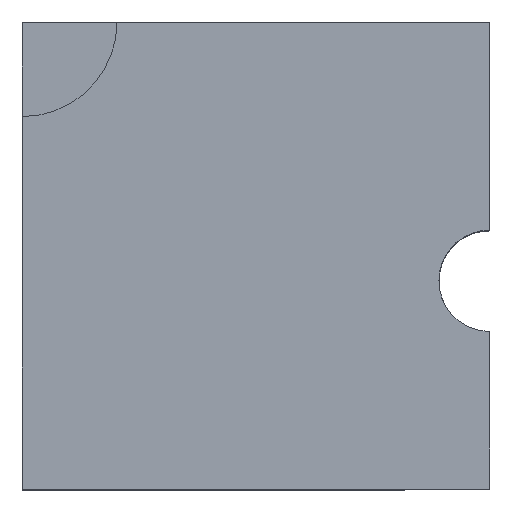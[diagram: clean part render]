
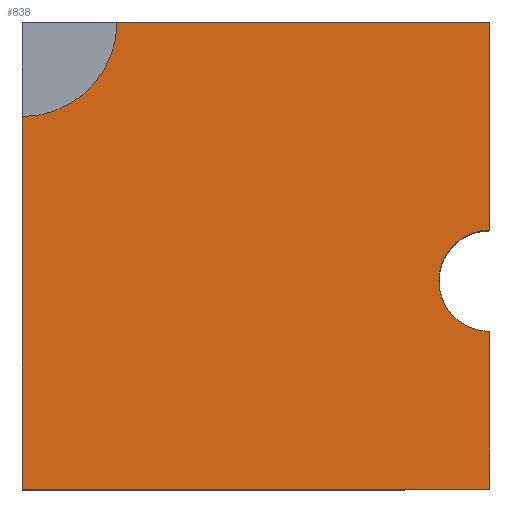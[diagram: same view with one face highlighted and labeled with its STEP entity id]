
A CAD part, top view. The second image highlights one B-rep face of the part: STEP entity #838.
In plain terms, the highlighted planar face has unit normal (0, 0, 1).
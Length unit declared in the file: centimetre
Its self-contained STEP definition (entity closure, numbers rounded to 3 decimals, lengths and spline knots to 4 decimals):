
#25 = CARTESIAN_POINT ( 'NONE',  ( 1000., 1000., 1000. ) ) ;
#80 = DIRECTION ( 'NONE',  ( 0., 0., 1. ) ) ;
#117 = CARTESIAN_POINT ( 'NONE',  ( 1000., 1000., 1000. ) ) ;
#139 = CARTESIAN_POINT ( 'NONE',  ( 0., 0., 1000. ) ) ;
#150 = CIRCLE ( 'NONE', #347, 108.4925 ) ;
#199 = LINE ( 'NONE', #312, #1360 ) ;
#202 = ORIENTED_EDGE ( 'NONE', *, *, #1067, .F. ) ;
#204 = DIRECTION ( 'NONE',  ( 0., 1., 0. ) ) ;
#229 = DIRECTION ( 'NONE',  ( 1., 0., 0. ) ) ;
#239 = EDGE_CURVE ( 'NONE', #1300, #1309, #713, .T. ) ;
#304 = CIRCLE ( 'NONE', #715, 202.5312 ) ;
#312 = CARTESIAN_POINT ( 'NONE',  ( 1000., 1000., 1000. ) ) ;
#334 = DIRECTION ( 'NONE',  ( -1., 0., 0. ) ) ;
#347 = AXIS2_PLACEMENT_3D ( 'NONE', #1524, #445, #334 ) ;
#399 = CARTESIAN_POINT ( 'NONE',  ( 1000., 337.5842, 1000. ) ) ;
#405 = DIRECTION ( 'NONE',  ( -1., 0., 0. ) ) ;
#412 = DIRECTION ( 'NONE',  ( 0., -1., 0. ) ) ;
#436 = DIRECTION ( 'NONE',  ( 0., 1., 0. ) ) ;
#438 = DIRECTION ( 'NONE',  ( 1., 0., 0. ) ) ;
#440 = ORIENTED_EDGE ( 'NONE', *, *, #687, .T. ) ;
#445 = DIRECTION ( 'NONE',  ( 0., 0., -1. ) ) ;
#446 = CARTESIAN_POINT ( 'NONE',  ( 891.5075, 446.0767, 1000. ) ) ;
#451 = EDGE_CURVE ( 'NONE', #1309, #1056, #1268, .T. ) ;
#505 = AXIS2_PLACEMENT_3D ( 'NONE', #543, #1037, #438 ) ;
#543 = CARTESIAN_POINT ( 'NONE',  ( 0., 0., 1000. ) ) ;
#552 = VERTEX_POINT ( 'NONE', #139 ) ;
#553 = ORIENTED_EDGE ( 'NONE', *, *, #451, .T. ) ;
#564 = VECTOR ( 'NONE', #1244, 100. ) ;
#569 = EDGE_LOOP ( 'NONE', ( #202, #1430, #440, #900, #553, #722, #1039, #1526 ) ) ;
#608 = LINE ( 'NONE', #1091, #796 ) ;
#614 = VERTEX_POINT ( 'NONE', #25 ) ;
#629 = CARTESIAN_POINT ( 'NONE',  ( 0., 1000., 1000. ) ) ;
#647 = EDGE_CURVE ( 'NONE', #1056, #987, #150, .T. ) ;
#649 = CARTESIAN_POINT ( 'NONE',  ( 1000., 0., 1000. ) ) ;
#659 = VECTOR ( 'NONE', #204, 100. ) ;
#663 = CARTESIAN_POINT ( 'NONE',  ( 1000., 446.0767, 1000. ) ) ;
#687 = EDGE_CURVE ( 'NONE', #552, #1300, #1567, .T. ) ;
#697 = EDGE_CURVE ( 'NONE', #1217, #552, #608, .T. ) ;
#709 = DIRECTION ( 'NONE',  ( 1., 0., 0. ) ) ;
#713 = LINE ( 'NONE', #117, #659 ) ;
#715 = AXIS2_PLACEMENT_3D ( 'NONE', #1554, #80, #709 ) ;
#722 = ORIENTED_EDGE ( 'NONE', *, *, #647, .T. ) ;
#784 = PLANE ( 'NONE',  #505 ) ;
#796 = VECTOR ( 'NONE', #412, 100. ) ;
#802 = CARTESIAN_POINT ( 'NONE',  ( 202.5312, 1000., 1000. ) ) ;
#838 = ADVANCED_FACE ( 'NONE', ( #1488 ), #784, .T. ) ;
#877 = VERTEX_POINT ( 'NONE', #802 ) ;
#900 = ORIENTED_EDGE ( 'NONE', *, *, #239, .T. ) ;
#987 = VERTEX_POINT ( 'NONE', #1413 ) ;
#1037 = DIRECTION ( 'NONE',  ( 0., 0., 1. ) ) ;
#1039 = ORIENTED_EDGE ( 'NONE', *, *, #1427, .T. ) ;
#1056 = VERTEX_POINT ( 'NONE', #446 ) ;
#1067 = EDGE_CURVE ( 'NONE', #1217, #877, #304, .T. ) ;
#1091 = CARTESIAN_POINT ( 'NONE',  ( 0., 1000., 1000. ) ) ;
#1107 = EDGE_CURVE ( 'NONE', #614, #877, #1480, .T. ) ;
#1121 = AXIS2_PLACEMENT_3D ( 'NONE', #663, #1264, #405 ) ;
#1215 = CARTESIAN_POINT ( 'NONE',  ( 0., 797.4688, 1000. ) ) ;
#1217 = VERTEX_POINT ( 'NONE', #1215 ) ;
#1244 = DIRECTION ( 'NONE',  ( -1., 0., 0. ) ) ;
#1264 = DIRECTION ( 'NONE',  ( 0., 0., -1. ) ) ;
#1268 = CIRCLE ( 'NONE', #1121, 108.4925 ) ;
#1293 = VECTOR ( 'NONE', #229, 100. ) ;
#1300 = VERTEX_POINT ( 'NONE', #649 ) ;
#1309 = VERTEX_POINT ( 'NONE', #399 ) ;
#1321 = CARTESIAN_POINT ( 'NONE',  ( 0., 0., 1000. ) ) ;
#1360 = VECTOR ( 'NONE', #436, 100. ) ;
#1413 = CARTESIAN_POINT ( 'NONE',  ( 1000., 554.5692, 1000. ) ) ;
#1427 = EDGE_CURVE ( 'NONE', #987, #614, #199, .T. ) ;
#1430 = ORIENTED_EDGE ( 'NONE', *, *, #697, .T. ) ;
#1480 = LINE ( 'NONE', #629, #564 ) ;
#1488 = FACE_OUTER_BOUND ( 'NONE', #569, .T. ) ;
#1524 = CARTESIAN_POINT ( 'NONE',  ( 1000., 446.0767, 1000. ) ) ;
#1526 = ORIENTED_EDGE ( 'NONE', *, *, #1107, .T. ) ;
#1554 = CARTESIAN_POINT ( 'NONE',  ( 0., 1000., 1000. ) ) ;
#1567 = LINE ( 'NONE', #1321, #1293 ) ;
